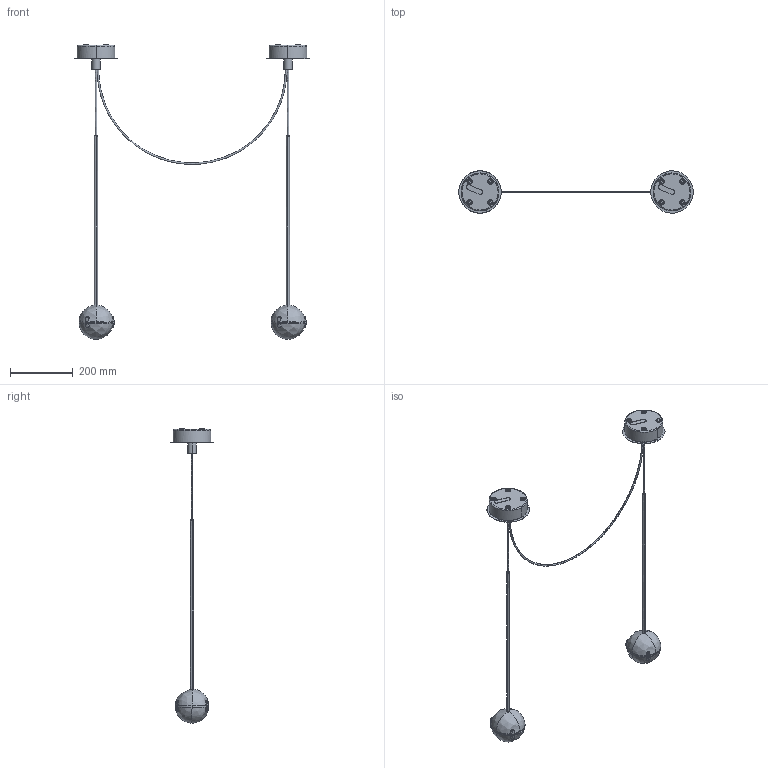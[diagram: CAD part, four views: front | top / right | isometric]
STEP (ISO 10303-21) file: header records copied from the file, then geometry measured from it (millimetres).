
FILE_DESCRIPTION(/* description */ (''),/* implementation_level */ '2;1');
FILE_NAME(/* name */ 'CI482C~1',/* time_stamp */ '2016-09-01T17:48:21+02:00',/* author */ (''),/* organization */ (''),/* preprocessor_version */ 'ST-DEVELOPER v15',/* originating_system */ '',/* authorisation */ '');
FILE_SCHEMA (('CONFIG_CONTROL_DESIGN'));
Length unit declared in the file: millimetre
Products named in the file (2): CONVIVIO_NEW_LED_SOPRATAVOLO_MU_ASM; CONVIVIO_NEW_LED_SOPRATAVOLO_MU
Assembly tree (1 placements, depth 2):
  CONVIVIO_NEW_LED_SOPRATAVOLO_MU_ASM
    CONVIVIO_NEW_LED_SOPRATAVOLO_MU
Bounding box: 747 x 134.95 x 938.78 mm (x, y, z)
Surface area: 233406.5 mm2 (no closed solid volume)
Topology: 0 solids, 1 shells, 348 faces, 918 edges, 564 vertices
Faces by surface type: bspline 250, plane 98
Entity records: 21051 total; most frequent: CARTESIAN_POINT 15799, ORIENTED_EDGE 1760, EDGE_CURVE 898, VERTEX_POINT 564, B_SPLINE_CURVE_WITH_KNOTS 424, EDGE_LOOP 378, ADVANCED_FACE 348, FACE_OUTER_BOUND 348
